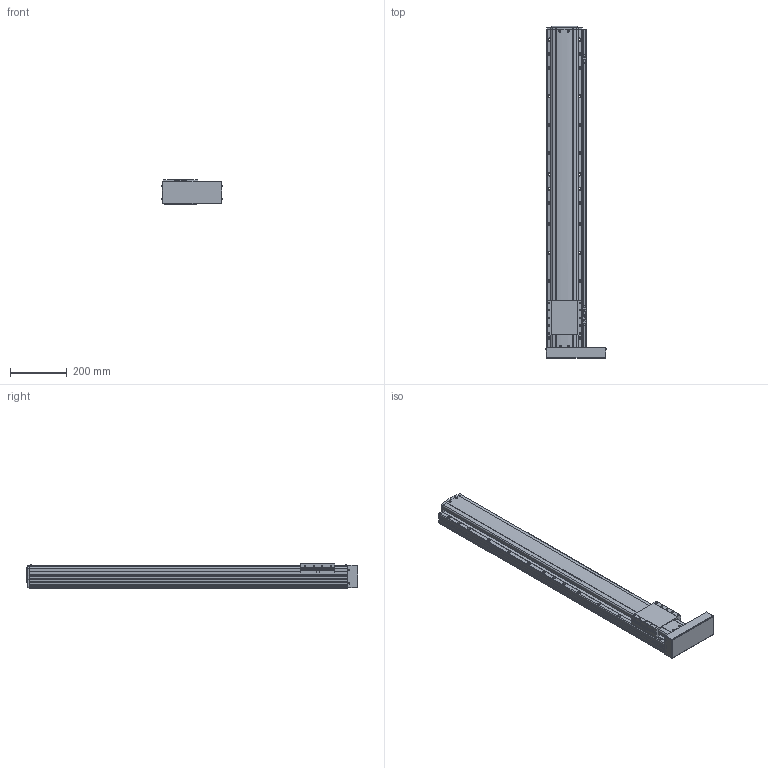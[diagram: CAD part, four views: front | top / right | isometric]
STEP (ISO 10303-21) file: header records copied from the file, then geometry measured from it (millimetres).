
FILE_DESCRIPTION(('STEP AP214'),'1');
FILE_NAME('Z:/Web/3D/PSA125/STP/PSA125-900 (3D)/PSA125ㅁㅁ-900PR+3SR.stp','2014-06-23T04:59:32',(' '),(' '),'Spatial InterOp 3D',' ',' ');
FILE_SCHEMA(('automotive_design'));
Length unit declared in the file: millimetre
Products named in the file (41): 스크루 : Round - M4.0 x 10.0; RRCV-PA120; SLIDE; BASE; FRCV-PA120-1(기준 뿔 제거); RR1500; 스크루 : Round - M4.0 x 6.0; 너트 : Square - M10.0 x 220.7419; BTCV - 60A; 스크루 : Round - M3.0 x 6.0; EE-SX674; SBK-SX674-352; M3.0 x 6.0; SRL-16x17-380L; SGD-PA95; 스크루 : Round - M3.0 x 8.0
Bounding box: 212.13 x 1168.6 x 86 mm (x, y, z)
Volume: 10159893 mm3; surface area: 928784.1 mm2
Topology: 41 solids, 41 shells, 2547 faces, 6793 edges, 4346 vertices
Faces by surface type: plane 1419, cylinder 748, cone 260, sphere 64, bspline 31, torus 25
Entity records: 101740 total; most frequent: CARTESIAN_POINT 16507, DIRECTION 13585, ORIENTED_EDGE 13278, EDGE_CURVE 6639, AXIS2_PLACEMENT_3D 4581, LINE 4423, VECTOR 4423, VERTEX_POINT 4346
